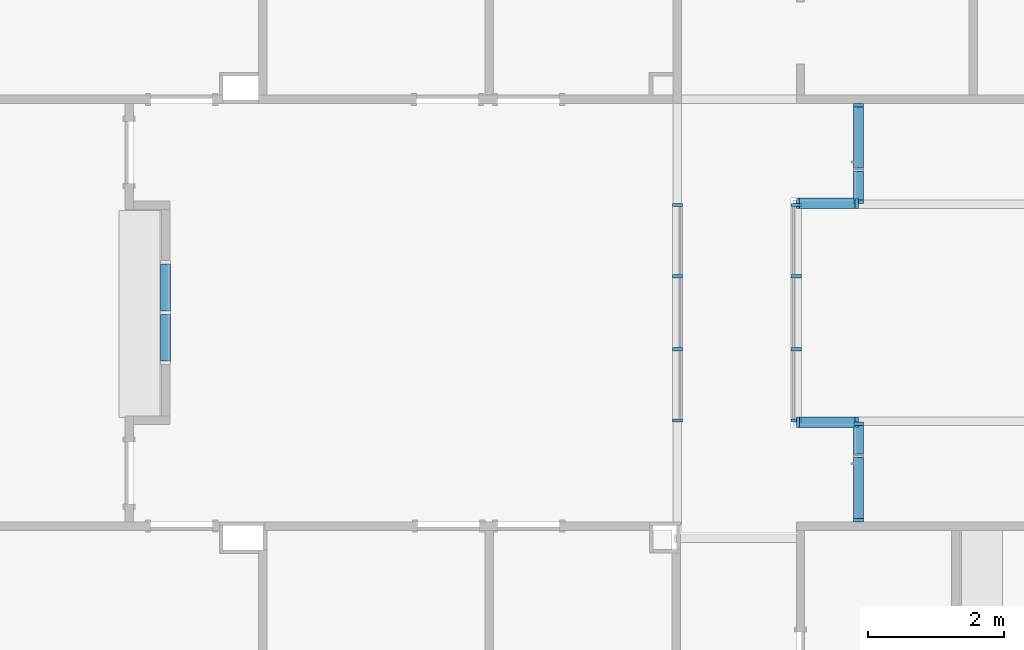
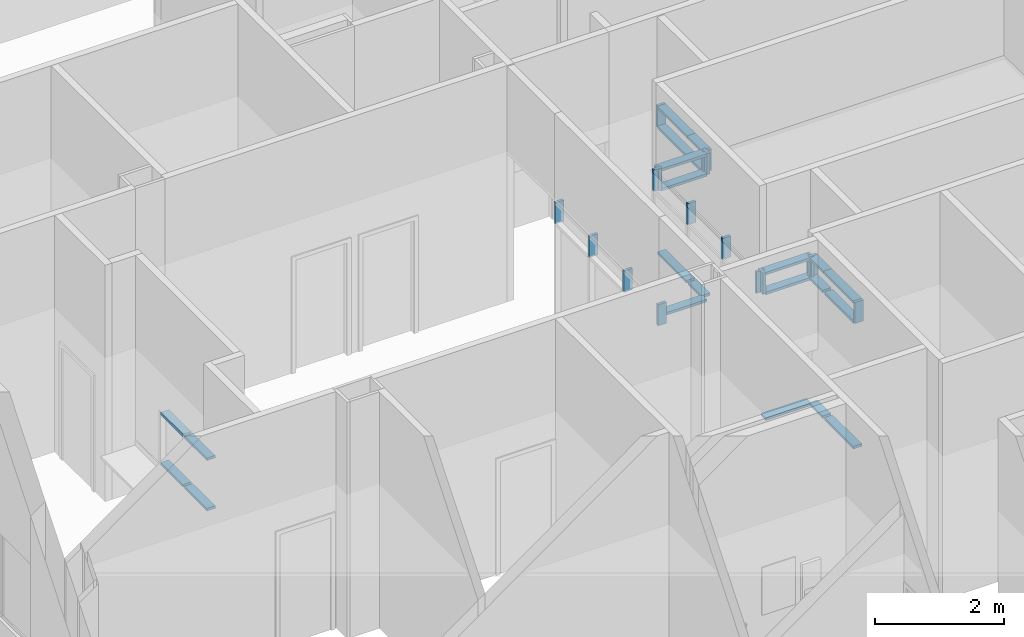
# One storey, part 11 of 82: 38 members, 7 elements without a shape of their own.
"""IFC2X3 building model written with IfcOpenShell, lengths in metres."""

import ifcopenshell
import ifcopenshell.guid

model = None  # the IFC model being written
_history = None  # IfcOwnerHistory: only IFC2X3 demands one
_inside = {}  # id of a spatial element -> (the spatial element, [elements in it])
_under = {}  # id of a project, library or spatial element -> (it, [spatial elements below it])
_declared = {}  # id of a project -> (the project, [libraries it declares])
_typed = {}  # id of a type object -> (the type object, [elements of that type])
_made_of = {}  # id of a material, layer set ... -> (it, [elements and type objects made of it])


def new_model(schema):
    """Start an empty IFC model of exactly this schema.

    Asked for "IFC4X3", IfcOpenShell would pick the latest addendum, in which some entities
    have other attributes; the version numbers below select the first issue.
    IFC2X3 requires an IfcOwnerHistory on every rooted entity: one is made here for all.
    """
    global model, _history
    if schema == "IFC4X3":
        model = ifcopenshell.file(schema_version=(4, 3, 0, 0))
    else:
        model = ifcopenshell.file(schema=schema)
    _inside.clear()
    _under.clear()
    _declared.clear()
    _typed.clear()
    _made_of.clear()
    _history = None
    if model.schema == "IFC2X3":
        org = make("IfcOrganization", Name="unknown")
        user = make(
            "IfcPersonAndOrganization",
            ThePerson=make("IfcPerson", FamilyName="unknown"),
            TheOrganization=org,
        )
        app = make(
            "IfcApplication",
            ApplicationDeveloper=org,
            Version="unknown",
            ApplicationFullName="unknown",
            ApplicationIdentifier="unknown",
        )
        _history = make(
            "IfcOwnerHistory",
            OwningUser=user,
            OwningApplication=app,
            ChangeAction="ADDED",
            CreationDate=0,
        )
    return model


def make(cls, **values):
    """One entity of the class cls with the attributes given. An attribute that is None is left unset."""
    return model.create_entity(
        cls, **{name: value for name, value in values.items() if value is not None}
    )


def entity(cls, *values):
    """Any entity or typed value of the class cls, its attributes in the order of the schema. None: left unset."""
    e = model.create_entity(cls)
    for i, value in enumerate(values):
        if value is not None:
            e[i] = value
    return e


def rooted(cls, **values):
    """An entity with a GlobalId (a new one), such as an element, a storey or a relation."""
    return make(cls, GlobalId=ifcopenshell.guid.new(), OwnerHistory=_history, **values)


def si_unit(unit_type, name, prefix=None):
    """IfcSIUnit, for example si_unit("LENGTHUNIT", "METRE", prefix="MILLI")."""
    return make("IfcSIUnit", UnitType=unit_type, Prefix=prefix, Name=name)


def converted_unit(unit_type, name, factor, base, dimensions=None, offset=None):
    """IfcConversionBasedUnit, such as the inch: factor (a typed value) times the base unit."""
    return make(
        "IfcConversionBasedUnit"
        if offset is None
        else "IfcConversionBasedUnitWithOffset",
        ConversionOffset=offset,
        Dimensions=None
        if dimensions is None
        else entity("IfcDimensionalExponents", *dimensions),
        UnitType=unit_type,
        Name=name,
        ConversionFactor=make(
            "IfcMeasureWithUnit", ValueComponent=factor, UnitComponent=base
        ),
    )


def assignment(units):
    """IfcUnitAssignment: the units of a project."""
    return None if units is None else make("IfcUnitAssignment", Units=units)


def point(xyz):
    """IfcCartesianPoint."""
    return None if xyz is None else make("IfcCartesianPoint", Coordinates=xyz)


def direction(xyz):
    """IfcDirection."""
    return None if xyz is None else make("IfcDirection", DirectionRatios=xyz)


def frame(location, z_axis=None, x_axis=None):
    """IfcAxis2Placement3D, a coordinate frame: its origin and axes. An axis left out is left unset."""
    return make(
        "IfcAxis2Placement3D",
        Location=point(location),
        Axis=direction(z_axis),
        RefDirection=direction(x_axis),
    )


def frame_2d(location, x_axis=None):
    """IfcAxis2Placement2D, a coordinate frame in the plane: its origin and x axis."""
    return make(
        "IfcAxis2Placement2D", Location=point(location), RefDirection=direction(x_axis)
    )


def origin():
    """The frame at (0, 0, 0) with its axes left unset."""
    return frame((0.0, 0.0, 0.0))


def origin_2d_with_axis():
    """The frame at (0, 0) in the plane with the x axis (1, 0) written out."""
    return frame_2d((0.0, 0.0), x_axis=(1.0, 0.0))


def place(relative_to, where):
    """IfcLocalPlacement: puts the frame where relative to a parent placement (None: the world)."""
    return make(
        "IfcLocalPlacement", PlacementRelTo=relative_to, RelativePlacement=where
    )


def context(
    kind, dimensions, precision=None, world=None, true_north=None, identifier=None
):
    """IfcGeometricRepresentationContext, for example the 3D "Model" context."""
    return make(
        "IfcGeometricRepresentationContext",
        ContextIdentifier=identifier,
        ContextType=kind,
        CoordinateSpaceDimension=dimensions,
        Precision=precision,
        WorldCoordinateSystem=world,
        TrueNorth=true_north,
    )


def project(units=None, contexts=None):
    """IfcProject with its units and contexts."""
    return rooted(
        "IfcProject",
        Name="project",
        RepresentationContexts=contexts,
        UnitsInContext=assignment(units),
    )


def spatial(cls, under=None, at=None, **own):
    """A site, building, storey or space (cls), placed at a placement, below another one or the project."""
    s = rooted(cls, ObjectPlacement=at, **own)
    if under is not None:
        _under.setdefault(under.id(), (under, []))[1].append(s)
    return s


def profile(cls, at=None, kind="AREA", **sizes):
    """A parametric profile (cls). Its sizes go by their IFC names, for example OverallWidth=200.0."""
    return make(cls, ProfileType=kind, Position=at, **sizes)


def rectangle(**sizes):
    """IfcRectangleProfileDef."""
    return profile("IfcRectangleProfileDef", **sizes)


def extrude(swept, where, along, depth):
    """IfcExtrudedAreaSolid: the profile swept, set in the frame where, extruded along a direction by depth."""
    return make(
        "IfcExtrudedAreaSolid",
        SweptArea=swept,
        Position=where,
        ExtrudedDirection=direction(along),
        Depth=depth,
    )


def shape(context_of_items, identifier, shape_type, items):
    """IfcShapeRepresentation: the items that make up one representation, for example the "Body"."""
    return make(
        "IfcShapeRepresentation",
        ContextOfItems=context_of_items,
        RepresentationIdentifier=identifier,
        RepresentationType=shape_type,
        Items=items,
    )


def source(mapping_origin, context_of_items, identifier, shape_type, items):
    """IfcRepresentationMap: a shape defined once, which mapped items show again and again."""
    return make(
        "IfcRepresentationMap",
        MappingOrigin=mapping_origin,
        MappedRepresentation=shape(context_of_items, identifier, shape_type, items),
    )


def transform(
    local_origin,
    x_axis=None,
    y_axis=None,
    z_axis=None,
    scale=None,
    scale2=None,
    scale3=None,
    uniform=True,
):
    """IfcCartesianTransformationOperator3D, or its non-uniform kind. x_axis, y_axis, z_axis: its Axis1, 2, 3."""
    if uniform:
        return make(
            "IfcCartesianTransformationOperator3D",
            Axis1=direction(x_axis),
            Axis2=direction(y_axis),
            LocalOrigin=point(local_origin),
            Scale=scale,
            Axis3=direction(z_axis),
        )
    return make(
        "IfcCartesianTransformationOperator3DnonUniform",
        Axis1=direction(x_axis),
        Axis2=direction(y_axis),
        LocalOrigin=point(local_origin),
        Scale=scale,
        Axis3=direction(z_axis),
        Scale2=scale2,
        Scale3=scale3,
    )


def mapped(mapping_source, mapping_target):
    """IfcMappedItem: shows the shape of a source again, moved by a transform."""
    return make(
        "IfcMappedItem", MappingSource=mapping_source, MappingTarget=mapping_target
    )


def material(Name=None, Category=None):
    """IfcMaterial."""
    return make("IfcMaterial", Name=Name, Category=Category)


def made_of(thing, what):
    """Note that an element or type object is made of a material, layer set ...; save() writes the relation."""
    if what is not None:
        _made_of.setdefault(what.id(), (what, []))[1].append(thing)
    return thing


def type_object(cls, material=None, **own):
    """A type object (cls), such as IfcWallType, which elements share."""
    return made_of(rooted(cls, **own), material)


def type_shapes(of_type, sources):
    """Give a type object the sources (RepresentationMaps) that its elements show as mapped items."""
    of_type.RepresentationMaps = sources


def element(
    cls,
    number,
    at=None,
    inside=None,
    cuts=None,
    type_object=None,
    material=None,
    context=None,
    identifier="Body",
    shape_type=None,
    held_by="IfcProductDefinitionShape",
    body=None,
    shapes=None,
    **own,
):
    """One element of the class cls, such as IfcWall. Its Tag is "e" and its number.

    at: its placement. inside: the storey or other place that contains it. cuts: it is an
    opening in that element (IfcRelVoidsElement). A single representation is given by context,
    identifier, shape_type and body (its items); several are given by shapes. held_by: the class
    of the entity that holds the representations. save() writes the other relations.
    """
    e = rooted(cls, Tag="e%d" % number, ObjectPlacement=at, **own)
    if body is not None:
        shapes = [shape(context, identifier, shape_type, body)]
    if shapes is not None:
        e.Representation = make(held_by, Representations=shapes)
    if inside is not None:
        _inside.setdefault(inside.id(), (inside, []))[1].append(e)
    if cuts is not None:
        rooted(
            "IfcRelVoidsElement", RelatingBuildingElement=cuts, RelatedOpeningElement=e
        )
    if type_object is not None:
        _typed.setdefault(type_object.id(), (type_object, []))[1].append(e)
    return made_of(e, material)


def aggregate(whole, parts):
    """IfcRelAggregates: a whole, such as a stair, and the parts it consists of."""
    return rooted("IfcRelAggregates", RelatingObject=whole, RelatedObjects=parts)


def save(model, path):
    """Write the relations noted so far, then the file.

    IfcRelAggregates (storeys below a building ...), IfcRelContainedInSpatialStructure (elements
    in a storey), IfcRelDefinesByType, IfcRelAssociatesMaterial and IfcRelDeclares: one each for
    every whole, place, type object, material and project.
    """
    for whole, parts in _under.values():
        aggregate(whole, parts)
    for where, things in _inside.values():
        rooted(
            "IfcRelContainedInSpatialStructure",
            RelatedElements=things,
            RelatingStructure=where,
        )
    for kind, things in _typed.values():
        rooted("IfcRelDefinesByType", RelatedObjects=things, RelatingType=kind)
    for what, things in _made_of.values():
        rooted("IfcRelAssociatesMaterial", RelatedObjects=things, RelatingMaterial=what)
    for by, libraries in _declared.values():
        rooted("IfcRelDeclares", RelatingContext=by, RelatedDefinitions=libraries)
    model.write(path)


model = new_model("IFC2X3")

# Units and contexts
model_context = context("Model", 3, precision=1e-09, world=origin())
plan_context = context("Plan", 3, precision=1e-09, world=origin())
ifc_project = project(units=[si_unit("LENGTHUNIT", "METRE"), si_unit("AREAUNIT", "SQUARE_METRE"), si_unit("VOLUMEUNIT", "CUBIC_METRE"), converted_unit("PLANEANGLEUNIT", "DEGREE", entity("IfcRatioMeasure", 0.01745329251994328), si_unit("PLANEANGLEUNIT", "RADIAN"), dimensions=[0, 0, 0, 0, 0, 0, 0]), si_unit("TIMEUNIT", "SECOND")], contexts=[model_context, plan_context])

# Site, building, storey
site_placement = place(None, origin())
site = spatial("IfcSite", under=ifc_project, at=site_placement, Name="Default", CompositionType="ELEMENT")
building_placement = place(site_placement, origin())
building = spatial("IfcBuilding", under=site, at=building_placement, CompositionType="ELEMENT")
storey_placement = place(building_placement, origin())
storey = spatial("IfcBuildingStorey", under=building, at=storey_placement, Name="First Floor", CompositionType="ELEMENT", Elevation=-3.531500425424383e-13)

# Curtain wall, member
curtain_wall_1_placement = place(storey_placement, origin())
curtain_wall_1 = element("IfcCurtainWall", 1, at=curtain_wall_1_placement, inside=storey, Name="Curtain Wall:Storefront - Interior", ObjectType="Curtain Wall:Storefront - Interior")
ifc_material = material(Name="Metal - Aluminium")
member_type_1 = type_object("IfcMemberType", Name="50 x 150mm", PredefinedType="MULLION")
shared_shape_1 = source(origin(), model_context, "Body", "SweptSolid", [
    extrude(rectangle(XDim=0.05, YDim=0.15, at=origin_2d_with_axis()), frame((-0.025, 0.0, -0.4), z_axis=(0.0, 0.0, 1.0), x_axis=(-1.0, 0.0, 0.0)), (0.0, 0.0, 1.0), 0.4),
])
type_shapes(member_type_1, [shared_shape_1])
member_1_placement = place(storey_placement, frame((-40.47500000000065, 30.07999999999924, 2.4), z_axis=(0.0, 0.0, -1.0), x_axis=(0.0, -1.0, 0.0)))
member_1 = element("IfcMember", 2, at=member_1_placement, type_object=member_type_1, material=ifc_material, Name="Rectangular Mullion:50 x 150mm:50 x 150mm", ObjectType="50 x 150mm", context=model_context, shape_type="MappedRepresentation", body=[
    mapped(shared_shape_1, transform((0.0, 0.0, 0.0), scale=1.0)),
])

curtain_wall_2_placement = place(storey_placement, origin())
curtain_wall_2 = element("IfcCurtainWall", 3, at=curtain_wall_2_placement, inside=storey, Name="Curtain Wall:Storefront - Interior", ObjectType="Curtain Wall:Storefront - Interior")
member_type_2 = type_object("IfcMemberType", Name="50 x 150mm", PredefinedType="MULLION")
type_shapes(member_type_2, [shared_shape_1])
member_2_placement = place(storey_placement, frame((-37.80500000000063, 28.60999999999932, 2.8), z_axis=(0.0, 0.0, 1.0), x_axis=(0.0, -1.0, 0.0)))
member_2 = element("IfcMember", 4, at=member_2_placement, type_object=member_type_2, material=ifc_material, Name="Rectangular Mullion:50 x 150mm:50 x 150mm", ObjectType="50 x 150mm", context=model_context, shape_type="MappedRepresentation", body=[
    mapped(shared_shape_1, transform((0.0, 0.0, 0.0), scale=1.0)),
])

curtain_wall_3_placement = place(storey_placement, origin())
curtain_wall_3 = element("IfcCurtainWall", 5, at=curtain_wall_3_placement, inside=storey, Name="Curtain Wall:Storefront - Interior", ObjectType="Curtain Wall:Storefront - Interior")
member_3_placement = place(storey_placement, frame((-37.80500000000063, 33.30999999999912, 2.399999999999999), z_axis=(0.0, 0.0, -1.0), x_axis=(1.0, 0.0, 0.0)))
member_3 = element("IfcMember", 6, at=member_3_placement, type_object=member_type_1, material=ifc_material, Name="Rectangular Mullion:50 x 150mm:50 x 150mm", ObjectType="50 x 150mm", context=model_context, shape_type="MappedRepresentation", body=[
    mapped(shared_shape_1, transform((0.0, 0.0, 0.0), scale=1.0)),
])

curtain_wall_4_placement = place(storey_placement, origin())
curtain_wall_4 = element("IfcCurtainWall", 7, at=curtain_wall_4_placement, inside=storey, Name="Curtain Wall:Storefront - Interior", ObjectType="Curtain Wall:Storefront - Interior")
member_4_placement = place(storey_placement, frame((-38.72000000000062, 30.07999999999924, 2.399999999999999), z_axis=(0.0, 0.0, -1.0), x_axis=(-1.0, 0.0, 0.0)))
member_4 = element("IfcMember", 8, at=member_4_placement, type_object=member_type_1, material=ifc_material, Name="Rectangular Mullion:50 x 150mm:50 x 150mm", ObjectType="50 x 150mm", context=model_context, shape_type="MappedRepresentation", body=[
    mapped(shared_shape_1, transform((0.0, 0.0, 0.0), scale=1.0)),
])

# Member
member_5_placement = place(storey_placement, frame((-37.80500000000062, 30.07999999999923, 2.399999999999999), z_axis=(0.0, 0.0, -1.0), x_axis=(0.0, 1.0, 0.0)))
member_5 = element("IfcMember", 9, at=member_5_placement, type_object=member_type_1, material=ifc_material, Name="Rectangular Mullion:50 x 150mm:50 x 150mm", ObjectType="50 x 150mm", context=model_context, shape_type="MappedRepresentation", body=[
    mapped(shared_shape_1, transform((0.0, 0.0, 0.0), scale=1.0)),
])

member_6_placement = place(storey_placement, frame((-38.72000000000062, 33.30999999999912, 2.8), z_axis=(0.0, 0.0, 1.0), x_axis=(-1.0, 0.0, 0.0)))
member_6 = element("IfcMember", 10, at=member_6_placement, type_object=member_type_2, material=ifc_material, Name="Rectangular Mullion:50 x 150mm:50 x 150mm", ObjectType="50 x 150mm", context=model_context, shape_type="MappedRepresentation", body=[
    mapped(shared_shape_1, transform((0.0, 0.0, 0.0), scale=1.0)),
])

member_7_placement = place(storey_placement, frame((-40.47500000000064, 33.30999999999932, 2.8), z_axis=(0.0, 0.0, 1.0), x_axis=(0.0, 1.0, 0.0)))
member_7 = element("IfcMember", 11, at=member_7_placement, type_object=member_type_2, material=ifc_material, Name="Rectangular Mullion:50 x 150mm:50 x 150mm", ObjectType="50 x 150mm", context=model_context, shape_type="MappedRepresentation", body=[
    mapped(shared_shape_1, transform((0.0, 0.0, 0.0), scale=1.0)),
])

member_8_placement = place(storey_placement, frame((-37.80500000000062, 30.07999999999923, 2.8)))
member_8 = element("IfcMember", 12, at=member_8_placement, type_object=member_type_2, material=ifc_material, Name="Rectangular Mullion:50 x 150mm:50 x 150mm", ObjectType="50 x 150mm", context=model_context, shape_type="MappedRepresentation", body=[
    mapped(shared_shape_1, transform((0.0, 0.0, 0.0), scale=1.0)),
])

# Curtain wall, members
curtain_wall_5_placement = place(storey_placement, origin())
curtain_wall_5 = element("IfcCurtainWall", 13, at=curtain_wall_5_placement, inside=storey, Name="Curtain Wall:Storefront - Interior", ObjectType="Curtain Wall:Storefront - Interior")
member_9_placement = place(storey_placement, frame((-37.80500000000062, 34.77954814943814, 2.399999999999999), z_axis=(0.0, 0.0, -1.0), x_axis=(0.0, 1.0, 0.0)))
member_9 = element("IfcMember", 14, at=member_9_placement, type_object=member_type_1, material=ifc_material, Name="Rectangular Mullion:50 x 150mm:50 x 150mm", ObjectType="50 x 150mm", context=model_context, shape_type="MappedRepresentation", body=[
    mapped(shared_shape_1, transform((0.0, 0.0, 0.0), scale=1.0)),
])
member_10_placement = place(storey_placement, frame((-37.80500000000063, 33.30999999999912, 2.8), z_axis=(0.0, 0.0, 1.0), x_axis=(0.0, -1.0, 0.0)))
member_10 = element("IfcMember", 15, at=member_10_placement, type_object=member_type_2, material=ifc_material, Name="Rectangular Mullion:50 x 150mm:50 x 150mm", ObjectType="50 x 150mm", context=model_context, shape_type="MappedRepresentation", body=[
    mapped(shared_shape_1, transform((0.0, 0.0, 0.0), scale=1.0)),
])

curtain_wall_6_placement = place(storey_placement, origin())
curtain_wall_6 = element("IfcCurtainWall", 16, at=curtain_wall_6_placement, inside=storey, Name="Curtain Wall:Storefront - Interior", ObjectType="Curtain Wall:Storefront - Interior")
member_11_placement = place(storey_placement, frame((-38.72000000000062, 33.30999999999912, 2.399999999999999), z_axis=(0.0, 0.0, -1.0), x_axis=(0.0, 1.0, 0.0)))
member_11 = element("IfcMember", 17, at=member_11_placement, type_object=member_type_1, material=ifc_material, Name="Rectangular Mullion:50 x 150mm:50 x 150mm", ObjectType="50 x 150mm", context=model_context, shape_type="MappedRepresentation", body=[
    mapped(shared_shape_1, transform((0.0, 0.0, 0.0), scale=1.0)),
])
member_12_placement = place(storey_placement, frame((-38.72000000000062, 30.07999999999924, 2.8), z_axis=(0.0, 0.0, 1.0), x_axis=(0.0, -1.0, 0.0)))
member_12 = element("IfcMember", 18, at=member_12_placement, type_object=member_type_2, material=ifc_material, Name="Rectangular Mullion:50 x 150mm:50 x 150mm", ObjectType="50 x 150mm", context=model_context, shape_type="MappedRepresentation", body=[
    mapped(shared_shape_1, transform((0.0, 0.0, 0.0), scale=1.0)),
])

# Member
member_type_3 = type_object("IfcMemberType", Name="50 x 150mm", PredefinedType="MULLION")
shared_shape_2 = source(origin(), model_context, "Body", "SweptSolid", [
    extrude(rectangle(XDim=0.05, YDim=0.15, at=origin_2d_with_axis()), frame((0.0, 0.0, -0.4), z_axis=(0.0, 0.0, 1.0), x_axis=(-1.0, 0.0, 0.0)), (0.0, 0.0, 1.0), 0.4),
])
type_shapes(member_type_3, [shared_shape_2])
member_13_placement = place(storey_placement, frame((-40.47500000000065, 31.15666666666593, 2.4), z_axis=(0.0, 0.0, -1.0), x_axis=(0.0, -1.0, 0.0)))
member_13 = element("IfcMember", 19, at=member_13_placement, type_object=member_type_3, material=ifc_material, Name="Rectangular Mullion:50 x 150mm:50 x 150mm", ObjectType="50 x 150mm", context=model_context, shape_type="MappedRepresentation", body=[
    mapped(shared_shape_2, transform((0.0, 0.0, 0.0), scale=1.0)),
])

member_14_placement = place(storey_placement, frame((-40.47500000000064, 32.23333333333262, 2.4), z_axis=(0.0, 0.0, -1.0), x_axis=(0.0, -1.0, 0.0)))
member_14 = element("IfcMember", 20, at=member_14_placement, type_object=member_type_3, material=ifc_material, Name="Rectangular Mullion:50 x 150mm:50 x 150mm", ObjectType="50 x 150mm", context=model_context, shape_type="MappedRepresentation", body=[
    mapped(shared_shape_2, transform((0.0, 0.0, 0.0), scale=1.0)),
])

aggregate(curtain_wall_1, [member_13, member_14, member_1, member_7])

member_15_placement = place(storey_placement, frame((-38.72000000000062, 31.15666666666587, 2.399999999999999), z_axis=(0.0, 0.0, -1.0), x_axis=(0.0, 1.0, 0.0)))
member_15 = element("IfcMember", 21, at=member_15_placement, type_object=member_type_3, material=ifc_material, Name="Rectangular Mullion:50 x 150mm:50 x 150mm", ObjectType="50 x 150mm", context=model_context, shape_type="MappedRepresentation", body=[
    mapped(shared_shape_2, transform((0.0, 0.0, 0.0), scale=1.0)),
])

member_16_placement = place(storey_placement, frame((-38.72000000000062, 32.2333333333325, 2.399999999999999), z_axis=(0.0, 0.0, -1.0), x_axis=(0.0, 1.0, 0.0)))
member_16 = element("IfcMember", 22, at=member_16_placement, type_object=member_type_3, material=ifc_material, Name="Rectangular Mullion:50 x 150mm:50 x 150mm", ObjectType="50 x 150mm", context=model_context, shape_type="MappedRepresentation", body=[
    mapped(shared_shape_2, transform((0.0, 0.0, 0.0), scale=1.0)),
])

aggregate(curtain_wall_6, [member_11, member_15, member_12, member_16])

# Curtain wall, members
curtain_wall_7_placement = place(storey_placement, origin())
curtain_wall_7 = element("IfcCurtainWall", 23, at=curtain_wall_7_placement, inside=storey, Name="Curtain Wall:Storefront - Interior", ObjectType="Curtain Wall:Storefront - Interior")
member_type_4 = type_object("IfcMemberType", Name="50 x 150mm", PredefinedType="MULLION")
shared_shape_3 = source(origin(), model_context, "Body", "SweptSolid", [
    extrude(rectangle(XDim=0.05, YDim=0.15, at=origin_2d_with_axis()), frame((-0.025, 0.0, -0.6920000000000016), z_axis=(0.0, 0.0, 1.0), x_axis=(-1.0, 0.0, 0.0)), (0.0, 0.0, 1.0), 0.6920000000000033),
])
type_shapes(member_type_4, [shared_shape_3])
member_17_placement = place(storey_placement, frame((-48.02299986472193, 31.72199999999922, 2.0), z_axis=(0.0, -1.0, 0.0), x_axis=(0.0, 0.0, 1.0)))
member_17 = element("IfcMember", 24, at=member_17_placement, type_object=member_type_4, material=ifc_material, Name="Rectangular Mullion:50 x 150mm:50 x 150mm", ObjectType="50 x 150mm", context=model_context, shape_type="MappedRepresentation", body=[
    mapped(shared_shape_3, transform((0.0, 0.0, 0.0), scale=1.0)),
])
member_18_placement = place(storey_placement, frame((-48.02299986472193, 30.97999999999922, 2.0), z_axis=(0.0, -1.0, 0.0), x_axis=(0.0, 0.0, 1.0)))
member_18 = element("IfcMember", 25, at=member_18_placement, type_object=member_type_4, material=ifc_material, Name="Rectangular Mullion:50 x 150mm:50 x 150mm", ObjectType="50 x 150mm", context=model_context, shape_type="MappedRepresentation", body=[
    mapped(shared_shape_3, transform((0.0, 0.0, 0.0), scale=1.0)),
])
member_type_5 = type_object("IfcMemberType", Name="50 x 150mm", PredefinedType="MULLION")
shared_shape_4 = source(origin(), model_context, "Body", "SweptSolid", [
    extrude(rectangle(XDim=0.05, YDim=0.15, at=origin_2d_with_axis()), frame((-0.025, 0.0, -0.6919999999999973), z_axis=(0.0, 0.0, 1.0), x_axis=(-1.0, 0.0, 0.0)), (0.0, 0.0, 1.0), 0.691999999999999),
])
type_shapes(member_type_5, [shared_shape_4])
member_19_placement = place(storey_placement, frame((-48.02299986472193, 31.67199999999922, 1.0), z_axis=(0.0, 1.0, 0.0), x_axis=(0.0, 0.0, -1.0)))
member_19 = element("IfcMember", 26, at=member_19_placement, type_object=member_type_5, material=ifc_material, Name="Rectangular Mullion:50 x 150mm:50 x 150mm", ObjectType="50 x 150mm", context=model_context, shape_type="MappedRepresentation", body=[
    mapped(shared_shape_4, transform((0.0, 0.0, 0.0), scale=1.0)),
])
member_20_placement = place(storey_placement, frame((-48.02299986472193, 32.41399999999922, 1.0), z_axis=(0.0, 1.0, 0.0), x_axis=(0.0, 0.0, -1.0)))
member_20 = element("IfcMember", 27, at=member_20_placement, type_object=member_type_5, material=ifc_material, Name="Rectangular Mullion:50 x 150mm:50 x 150mm", ObjectType="50 x 150mm", context=model_context, shape_type="MappedRepresentation", body=[
    mapped(shared_shape_4, transform((0.0, 0.0, 0.0), scale=1.0)),
])
aggregate(curtain_wall_7, [member_19, member_17, member_18, member_20])

# Member
member_type_6 = type_object("IfcMemberType", Name="50 x 150mm", PredefinedType="MULLION")
shared_shape_5 = source(origin(), model_context, "Body", "SweptSolid", [
    extrude(rectangle(XDim=0.05, YDim=0.15, at=origin_2d_with_axis()), frame((0.0, 0.0, -0.8149999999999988), z_axis=(0.0, 0.0, 1.0), x_axis=(-1.0, 0.0, 0.0)), (0.0, 0.0, 1.0), 0.815),
])
type_shapes(member_type_6, [shared_shape_5])
member_21_placement = place(storey_placement, frame((-37.85500000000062, 33.30999999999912, 2.399999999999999), z_axis=(1.0, 0.0, 0.0), x_axis=(0.0, 0.0, 1.0)))
member_21 = element("IfcMember", 28, at=member_21_placement, type_object=member_type_6, material=ifc_material, Name="Rectangular Mullion:50 x 150mm:50 x 150mm", ObjectType="50 x 150mm", context=model_context, shape_type="MappedRepresentation", body=[
    mapped(shared_shape_5, transform((0.0, 0.0, 0.0), scale=1.0)),
])

member_22_placement = place(storey_placement, frame((-38.67000000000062, 30.07999999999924, 2.399999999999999), z_axis=(-1.0, 0.0, 0.0), x_axis=(0.0, 0.0, 1.0)))
member_22 = element("IfcMember", 29, at=member_22_placement, type_object=member_type_6, material=ifc_material, Name="Rectangular Mullion:50 x 150mm:50 x 150mm", ObjectType="50 x 150mm", context=model_context, shape_type="MappedRepresentation", body=[
    mapped(shared_shape_5, transform((0.0, 0.0, 0.0), scale=1.0)),
])

member_type_7 = type_object("IfcMemberType", Name="50 x 150mm", PredefinedType="MULLION")
shared_shape_6 = source(origin(), model_context, "Body", "SweptSolid", [
    extrude(rectangle(XDim=0.05, YDim=0.15, at=origin_2d_with_axis()), frame((-0.025, 0.0, -0.8149999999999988), z_axis=(0.0, 0.0, 1.0), x_axis=(-1.0, 0.0, 0.0)), (0.0, 0.0, 1.0), 0.815),
])
type_shapes(member_type_7, [shared_shape_6])
member_23_placement = place(storey_placement, frame((-38.67000000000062, 30.07999999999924, 2.8), z_axis=(-1.0, 0.0, 0.0), x_axis=(0.0, 0.0, 1.0)))
member_23 = element("IfcMember", 30, at=member_23_placement, type_object=member_type_7, material=ifc_material, Name="Rectangular Mullion:50 x 150mm:50 x 150mm", ObjectType="50 x 150mm", context=model_context, shape_type="MappedRepresentation", body=[
    mapped(shared_shape_6, transform((0.0, 0.0, 0.0), scale=1.0)),
])

member_24_placement = place(storey_placement, frame((-37.85500000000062, 33.30999999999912, 2.8), z_axis=(1.0, 0.0, 0.0), x_axis=(0.0, 0.0, 1.0)))
member_24 = element("IfcMember", 31, at=member_24_placement, type_object=member_type_7, material=ifc_material, Name="Rectangular Mullion:50 x 150mm:50 x 150mm", ObjectType="50 x 150mm", context=model_context, shape_type="MappedRepresentation", body=[
    mapped(shared_shape_6, transform((0.0, 0.0, 0.0), scale=1.0)),
])

member_type_8 = type_object("IfcMemberType", Name="50 x 150mm", PredefinedType="MULLION")
shared_shape_7 = source(origin(), model_context, "Body", "SweptSolid", [
    extrude(rectangle(XDim=0.05, YDim=0.15, at=origin_2d_with_axis()), frame((-0.025, 0.0, -0.8149999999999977), z_axis=(0.0, 0.0, 1.0), x_axis=(-1.0, 0.0, 0.0)), (0.0, 0.0, 1.0), 0.815),
])
type_shapes(member_type_8, [shared_shape_7])
member_25_placement = place(storey_placement, frame((-37.85500000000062, 30.07999999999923, 0.0), z_axis=(1.0, 0.0, 0.0), x_axis=(0.0, 0.0, -1.0)))
member_25 = element("IfcMember", 32, at=member_25_placement, type_object=member_type_8, material=ifc_material, Name="Rectangular Mullion:50 x 150mm:50 x 150mm", ObjectType="50 x 150mm", context=model_context, shape_type="MappedRepresentation", body=[
    mapped(shared_shape_7, transform((0.0, 0.0, 0.0), scale=1.0)),
])

aggregate(curtain_wall_4, [member_23, member_25, member_4, member_8, member_22])

member_26_placement = place(storey_placement, frame((-38.67000000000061, 33.30999999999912, 0.0), z_axis=(-1.0, 0.0, 0.0), x_axis=(0.0, 0.0, -1.0)))
member_26 = element("IfcMember", 33, at=member_26_placement, type_object=member_type_8, material=ifc_material, Name="Rectangular Mullion:50 x 150mm:50 x 150mm", ObjectType="50 x 150mm", context=model_context, shape_type="MappedRepresentation", body=[
    mapped(shared_shape_7, transform((0.0, 0.0, 0.0), scale=1.0)),
])

aggregate(curtain_wall_3, [member_24, member_21, member_26, member_3, member_6])

member_type_9 = type_object("IfcMemberType", Name="50 x 150mm", PredefinedType="MULLION")
shared_shape_8 = source(origin(), model_context, "Body", "SweptSolid", [
    extrude(rectangle(XDim=0.05, YDim=0.15, at=origin_2d_with_axis()), frame((-0.025, 0.0, -0.4439994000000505), z_axis=(0.0, 0.0, 1.0), x_axis=(-1.0, 0.0, 0.0)), (0.0, 0.0, 1.0), 0.4439994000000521),
])
type_shapes(member_type_9, [shared_shape_8])
member_27_placement = place(storey_placement, frame((-37.80500000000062, 30.02999999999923, 2.8), z_axis=(0.0, 1.0, 0.0), x_axis=(0.0, 0.0, 1.0)))
member_27 = element("IfcMember", 34, at=member_27_placement, type_object=member_type_9, material=ifc_material, Name="Rectangular Mullion:50 x 150mm:50 x 150mm", ObjectType="50 x 150mm", context=model_context, shape_type="MappedRepresentation", body=[
    mapped(shared_shape_8, transform((0.0, 0.0, 0.0), scale=1.0)),
])

member_type_10 = type_object("IfcMemberType", Name="50 x 150mm", PredefinedType="MULLION")
shared_shape_9 = source(origin(), model_context, "Body", "SweptSolid", [
    extrude(rectangle(XDim=0.05, YDim=0.15, at=origin_2d_with_axis()), frame((-0.025, 0.0, -0.9245487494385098), z_axis=(0.0, 0.0, 1.0), x_axis=(-1.0, 0.0, 0.0)), (0.0, 0.0, 1.0), 0.9245487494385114),
])
type_shapes(member_type_10, [shared_shape_9])
member_28_placement = place(storey_placement, frame((-37.80500000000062, 34.72954814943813, 2.8), z_axis=(0.0, 1.0, 0.0), x_axis=(0.0, 0.0, 1.0)))
member_28 = element("IfcMember", 35, at=member_28_placement, type_object=member_type_10, material=ifc_material, Name="Rectangular Mullion:50 x 150mm:50 x 150mm", ObjectType="50 x 150mm", context=model_context, shape_type="MappedRepresentation", body=[
    mapped(shared_shape_9, transform((0.0, 0.0, 0.0), scale=1.0)),
])

member_type_11 = type_object("IfcMemberType", Name="50 x 150mm", PredefinedType="MULLION")
shared_shape_10 = source(origin(), model_context, "Body", "SweptSolid", [
    extrude(rectangle(XDim=0.05, YDim=0.15, at=origin_2d_with_axis()), frame((0.0, 0.0, -0.9010005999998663), z_axis=(0.0, 0.0, 1.0), x_axis=(-1.0, 0.0, 0.0)), (0.0, 0.0, 1.0), 0.9010005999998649),
])
type_shapes(member_type_11, [shared_shape_10])
member_29_placement = place(storey_placement, frame((-37.80500000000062, 29.56100059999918, 2.399999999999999), z_axis=(0.0, 1.0, 0.0), x_axis=(0.0, 0.0, 1.0)))
member_29 = element("IfcMember", 36, at=member_29_placement, type_object=member_type_11, material=ifc_material, Name="Rectangular Mullion:50 x 150mm:50 x 150mm", ObjectType="50 x 150mm", context=model_context, shape_type="MappedRepresentation", body=[
    mapped(shared_shape_10, transform((0.0, 0.0, 0.0), scale=1.0)),
])

member_type_12 = type_object("IfcMemberType", Name="50 x 150mm", PredefinedType="MULLION")
shared_shape_11 = source(origin(), model_context, "Body", "SweptSolid", [
    extrude(rectangle(XDim=0.05, YDim=0.15, at=origin_2d_with_axis()), frame((-0.025, 0.0, -0.926000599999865), z_axis=(0.0, 0.0, 1.0), x_axis=(-1.0, 0.0, 0.0)), (0.0, 0.0, 1.0), 0.926000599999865),
])
type_shapes(member_type_12, [shared_shape_11])
member_30_placement = place(storey_placement, frame((-37.80500000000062, 29.58600059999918, 2.8), z_axis=(0.0, 1.0, 0.0), x_axis=(0.0, 0.0, 1.0)))
member_30 = element("IfcMember", 37, at=member_30_placement, type_object=member_type_12, material=ifc_material, Name="Rectangular Mullion:50 x 150mm:50 x 150mm", ObjectType="50 x 150mm", context=model_context, shape_type="MappedRepresentation", body=[
    mapped(shared_shape_11, transform((0.0, 0.0, 0.0), scale=1.0)),
])

member_type_13 = type_object("IfcMemberType", Name="50 x 150mm", PredefinedType="MULLION")
shared_shape_12 = source(origin(), model_context, "Body", "SweptSolid", [
    extrude(rectangle(XDim=0.05, YDim=0.15, at=origin_2d_with_axis()), frame((0.0, 0.0, -0.4189994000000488), z_axis=(0.0, 0.0, 1.0), x_axis=(-1.0, 0.0, 0.0)), (0.0, 0.0, 1.0), 0.4189994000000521),
])
type_shapes(member_type_13, [shared_shape_12])
member_31_placement = place(storey_placement, frame((-37.80500000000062, 30.02999999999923, 2.399999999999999), z_axis=(0.0, 1.0, 0.0), x_axis=(0.0, 0.0, 1.0)))
member_31 = element("IfcMember", 38, at=member_31_placement, type_object=member_type_13, material=ifc_material, Name="Rectangular Mullion:50 x 150mm:50 x 150mm", ObjectType="50 x 150mm", context=model_context, shape_type="MappedRepresentation", body=[
    mapped(shared_shape_12, transform((0.0, 0.0, 0.0), scale=1.0)),
])

member_type_14 = type_object("IfcMemberType", Name="50 x 150mm", PredefinedType="MULLION")
shared_shape_13 = source(origin(), model_context, "Body", "SweptSolid", [
    extrude(rectangle(XDim=0.05, YDim=0.15, at=origin_2d_with_axis()), frame((-0.025, 0.0, -0.4449994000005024), z_axis=(0.0, 0.0, 1.0), x_axis=(-1.0, 0.0, 0.0)), (0.0, 0.0, 1.0), 0.4449994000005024),
])
type_shapes(member_type_14, [shared_shape_13])
member_32_placement = place(storey_placement, frame((-37.80500000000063, 33.80499939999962, 2.8), z_axis=(0.0, 1.0, 0.0), x_axis=(0.0, 0.0, 1.0)))
member_32 = element("IfcMember", 39, at=member_32_placement, type_object=member_type_14, material=ifc_material, Name="Rectangular Mullion:50 x 150mm:50 x 150mm", ObjectType="50 x 150mm", context=model_context, shape_type="MappedRepresentation", body=[
    mapped(shared_shape_13, transform((0.0, 0.0, 0.0), scale=1.0)),
])

member_type_15 = type_object("IfcMemberType", Name="50 x 150mm", PredefinedType="MULLION")
shared_shape_14 = source(origin(), model_context, "Body", "SweptSolid", [
    extrude(rectangle(XDim=0.05, YDim=0.15, at=origin_2d_with_axis()), frame((0.0, 0.0, -0.4199994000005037), z_axis=(0.0, 0.0, 1.0), x_axis=(-1.0, 0.0, 0.0)), (0.0, 0.0, 1.0), 0.4199994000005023),
])
type_shapes(member_type_15, [shared_shape_14])
member_33_placement = place(storey_placement, frame((-37.80500000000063, 33.77999939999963, 2.399999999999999), z_axis=(0.0, 1.0, 0.0), x_axis=(0.0, 0.0, 1.0)))
member_33 = element("IfcMember", 40, at=member_33_placement, type_object=member_type_15, material=ifc_material, Name="Rectangular Mullion:50 x 150mm:50 x 150mm", ObjectType="50 x 150mm", context=model_context, shape_type="MappedRepresentation", body=[
    mapped(shared_shape_14, transform((0.0, 0.0, 0.0), scale=1.0)),
])

member_type_16 = type_object("IfcMemberType", Name="50 x 150mm", PredefinedType="MULLION")
shared_shape_15 = source(origin(), model_context, "Body", "SweptSolid", [
    extrude(rectangle(XDim=0.05, YDim=0.15, at=origin_2d_with_axis()), frame((-0.025, 0.0, -0.9010005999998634), z_axis=(0.0, 0.0, 1.0), x_axis=(-1.0, 0.0, 0.0)), (0.0, 0.0, 1.0), 0.9010005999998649),
])
type_shapes(member_type_16, [shared_shape_15])
member_34_placement = place(storey_placement, frame((-37.80500000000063, 28.65999999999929, 0.0), z_axis=(0.0, -1.0, 0.0), x_axis=(0.0, 0.0, -1.0)))
member_34 = element("IfcMember", 41, at=member_34_placement, type_object=member_type_16, material=ifc_material, Name="Rectangular Mullion:50 x 150mm:50 x 150mm", ObjectType="50 x 150mm", context=model_context, shape_type="MappedRepresentation", body=[
    mapped(shared_shape_15, transform((0.0, 0.0, 0.0), scale=1.0)),
])

member_type_17 = type_object("IfcMemberType", Name="50 x 150mm", PredefinedType="MULLION")
shared_shape_16 = source(origin(), model_context, "Body", "SweptSolid", [
    extrude(rectangle(XDim=0.05, YDim=0.15, at=origin_2d_with_axis()), frame((-0.025, 0.0, -0.4189994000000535), z_axis=(0.0, 0.0, 1.0), x_axis=(-1.0, 0.0, 0.0)), (0.0, 0.0, 1.0), 0.4189994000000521),
])
type_shapes(member_type_17, [shared_shape_16])
member_35_placement = place(storey_placement, frame((-37.80500000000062, 29.61100059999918, 0.0), z_axis=(0.0, -1.0, 0.0), x_axis=(0.0, 0.0, -1.0)))
member_35 = element("IfcMember", 42, at=member_35_placement, type_object=member_type_17, material=ifc_material, Name="Rectangular Mullion:50 x 150mm:50 x 150mm", ObjectType="50 x 150mm", context=model_context, shape_type="MappedRepresentation", body=[
    mapped(shared_shape_16, transform((0.0, 0.0, 0.0), scale=1.0)),
])

aggregate(curtain_wall_2, [member_34, member_35, member_27, member_2, member_29, member_30, member_5, member_31])

member_type_18 = type_object("IfcMemberType", Name="50 x 150mm", PredefinedType="MULLION")
shared_shape_17 = source(origin(), model_context, "Body", "SweptSolid", [
    extrude(rectangle(XDim=0.05, YDim=0.15, at=origin_2d_with_axis()), frame((-0.025, 0.0, -0.4199994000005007), z_axis=(0.0, 0.0, 1.0), x_axis=(-1.0, 0.0, 0.0)), (0.0, 0.0, 1.0), 0.4199994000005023),
])
type_shapes(member_type_18, [shared_shape_17])
member_36_placement = place(storey_placement, frame((-37.80500000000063, 33.35999999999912, 0.0), z_axis=(0.0, -1.0, 0.0), x_axis=(0.0, 0.0, -1.0)))
member_36 = element("IfcMember", 43, at=member_36_placement, type_object=member_type_18, material=ifc_material, Name="Rectangular Mullion:50 x 150mm:50 x 150mm", ObjectType="50 x 150mm", context=model_context, shape_type="MappedRepresentation", body=[
    mapped(shared_shape_17, transform((0.0, 0.0, 0.0), scale=1.0)),
])

member_type_19 = type_object("IfcMemberType", Name="50 x 150mm", PredefinedType="MULLION")
shared_shape_18 = source(origin(), model_context, "Body", "SweptSolid", [
    extrude(rectangle(XDim=0.05, YDim=0.15, at=origin_2d_with_axis()), frame((0.0, 0.0, -0.8995487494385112), z_axis=(0.0, 0.0, 1.0), x_axis=(-1.0, 0.0, 0.0)), (0.0, 0.0, 1.0), 0.8995487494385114),
])
type_shapes(member_type_19, [shared_shape_18])
member_37_placement = place(storey_placement, frame((-37.80500000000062, 34.72954814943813, 2.399999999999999), z_axis=(0.0, 1.0, 0.0), x_axis=(0.0, 0.0, 1.0)))
member_37 = element("IfcMember", 44, at=member_37_placement, type_object=member_type_19, material=ifc_material, Name="Rectangular Mullion:50 x 150mm:50 x 150mm", ObjectType="50 x 150mm", context=model_context, shape_type="MappedRepresentation", body=[
    mapped(shared_shape_18, transform((0.0, 0.0, 0.0), scale=1.0)),
])

member_type_20 = type_object("IfcMemberType", Name="50 x 150mm", PredefinedType="MULLION")
shared_shape_19 = source(origin(), model_context, "Body", "SweptSolid", [
    extrude(rectangle(XDim=0.05, YDim=0.15, at=origin_2d_with_axis()), frame((-0.025, 0.0, -0.8995487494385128), z_axis=(0.0, 0.0, 1.0), x_axis=(-1.0, 0.0, 0.0)), (0.0, 0.0, 1.0), 0.8995487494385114),
])
type_shapes(member_type_20, [shared_shape_19])
member_38_placement = place(storey_placement, frame((-37.80500000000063, 33.82999939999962, 0.0), z_axis=(0.0, -1.0, 0.0), x_axis=(0.0, 0.0, -1.0)))
member_38 = element("IfcMember", 45, at=member_38_placement, type_object=member_type_20, material=ifc_material, Name="Rectangular Mullion:50 x 150mm:50 x 150mm", ObjectType="50 x 150mm", context=model_context, shape_type="MappedRepresentation", body=[
    mapped(shared_shape_19, transform((0.0, 0.0, 0.0), scale=1.0)),
])

aggregate(curtain_wall_5, [member_32, member_38, member_37, member_33, member_9, member_28, member_10, member_36])

save(model, "model.ifc")
